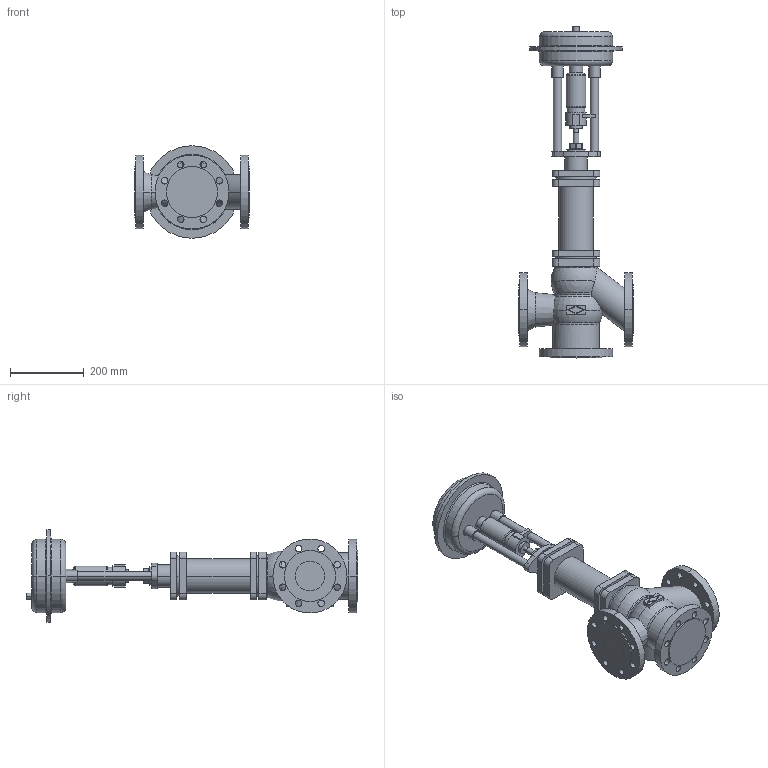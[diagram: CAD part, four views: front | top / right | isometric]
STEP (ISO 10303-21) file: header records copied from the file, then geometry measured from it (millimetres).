
FILE_DESCRIPTION(('OneSpaceDesigner STEP Export'),'2;1');
FILE_NAME('c000000750.stp','2006-09-20T11:30:47',(''),(''),'OneSpace Designer STEP processor for AP214 (Solid Model)','OneSpace Designer 13.20A 18-Aug-2005 (C) CoCreate Software GmbH','');
FILE_SCHEMA(('AUTOMOTIVE_DESIGN { 1 0 10303 214 1 1 1 1 }'));
Length unit declared in the file: millimetre
Products named in the file (2): 1; 2
Bounding box: 310 x 897.7 x 250 mm (x, y, z)
Volume: 12553589.1 mm3; surface area: 758090.4 mm2
Topology: 2 solids, 2 shells, 278 faces, 699 edges, 455 vertices
Faces by surface type: cylinder 140, plane 97, torus 29, cone 8, sphere 4
Entity records: 7722 total; most frequent: CARTESIAN_POINT 1558, ORIENTED_EDGE 1390, DIRECTION 1126, EDGE_CURVE 695, VERTEX_POINT 455, AXIS2_PLACEMENT_3D 413, EDGE_LOOP 360, VECTOR 300
